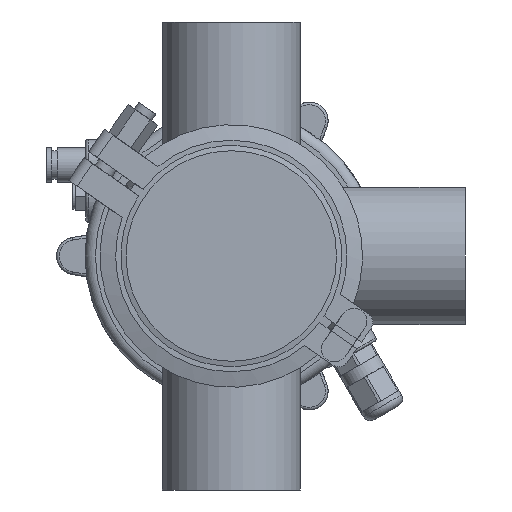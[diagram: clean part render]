
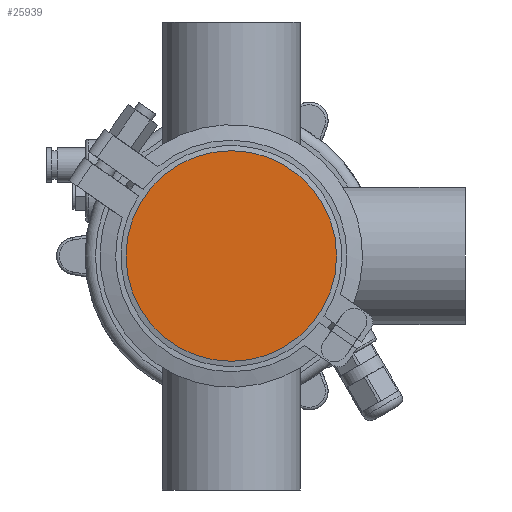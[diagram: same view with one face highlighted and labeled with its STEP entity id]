
A CAD part, front view. The second image highlights one B-rep face of the part: STEP entity #25939.
In plain terms, the highlighted planar face has unit normal (0, -1, 0).
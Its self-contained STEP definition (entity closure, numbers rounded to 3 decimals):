
#2631 = EDGE_LOOP ( 'NONE', ( #40220 ) ) ;
#10000 = CARTESIAN_POINT ( 'NONE',  ( 0., 0., 40.5 ) ) ;
#14660 = VERTEX_POINT ( 'NONE', #10000 ) ;
#20121 = CARTESIAN_POINT ( 'NONE',  ( 0., 0., 0. ) ) ;
#25939 = ADVANCED_FACE ( 'NONE', ( #38924 ), #54308, .T. ) ;
#26092 = DIRECTION ( 'NONE',  ( 0., -1., 0. ) ) ;
#38924 = FACE_OUTER_BOUND ( 'NONE', #2631, .T. ) ;
#39216 = CARTESIAN_POINT ( 'NONE',  ( -40.5, 0., 0. ) ) ;
#40220 = ORIENTED_EDGE ( 'NONE', *, *, #59117, .F. ) ;
#43706 = AXIS2_PLACEMENT_3D ( 'NONE', #20121, #52079, #57934 ) ;
#44260 = AXIS2_PLACEMENT_3D ( 'NONE', #39216, #26092, #45587 ) ;
#45587 = DIRECTION ( 'NONE',  ( 0., 0., -1. ) ) ;
#52079 = DIRECTION ( 'NONE',  ( 0., 1., 0. ) ) ;
#54308 = PLANE ( 'NONE',  #44260 ) ;
#56627 = CIRCLE ( 'NONE', #43706, 40.5 ) ;
#57934 = DIRECTION ( 'NONE',  ( 0., 0., 1. ) ) ;
#59117 = EDGE_CURVE ( 'NONE', #14660, #14660, #56627, .T. ) ;
